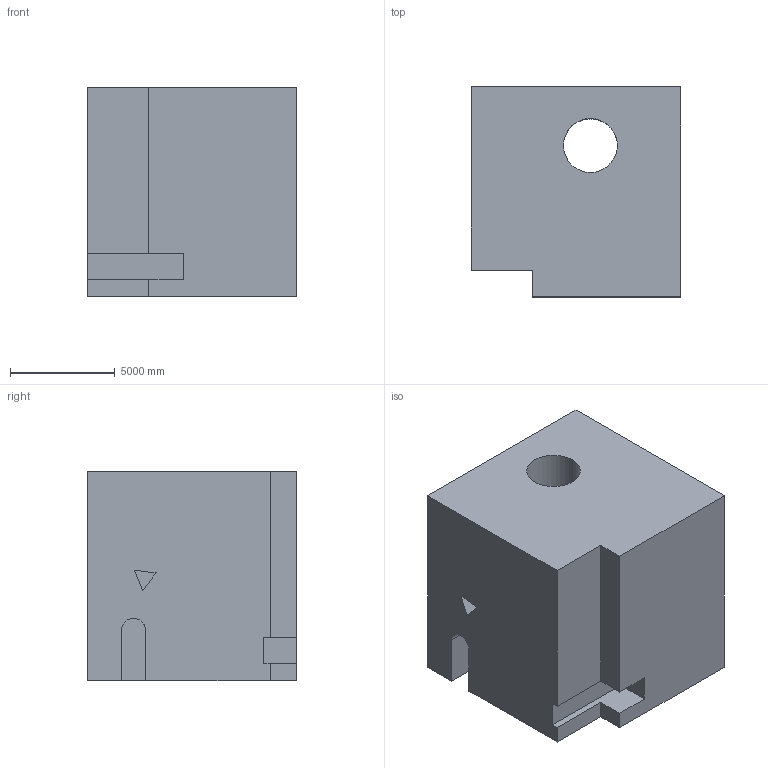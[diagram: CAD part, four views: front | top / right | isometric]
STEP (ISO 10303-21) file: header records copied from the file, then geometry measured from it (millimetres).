
FILE_DESCRIPTION (( 'STEP AP203' ), '1' );
FILE_NAME ('145.STEP', '2022-09-06T12:34:08', ( 'user' ), ( '' ), 'SwSTEP 2.0', 'SolidWorks 2021', '' );
FILE_SCHEMA (( 'CONFIG_CONTROL_DESIGN' ));
Length unit declared in the file: centimetre
Products named in the file (1): 145
Bounding box: 10000 x 10000 x 10000 mm (x, y, z)
Volume: 886814943182.8 mm3; surface area: 699574492.2 mm2
Topology: 1 solids, 1 shells, 29 faces, 79 edges, 52 vertices
Faces by surface type: plane 23, cylinder 6
Entity records: 1230 total; most frequent: CARTESIAN_POINT 413, ORIENTED_EDGE 158, DIRECTION 143, EDGE_CURVE 79, LINE 67, VECTOR 67, VERTEX_POINT 52, AXIS2_PLACEMENT_3D 38
